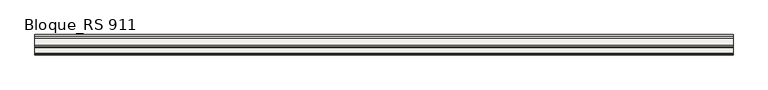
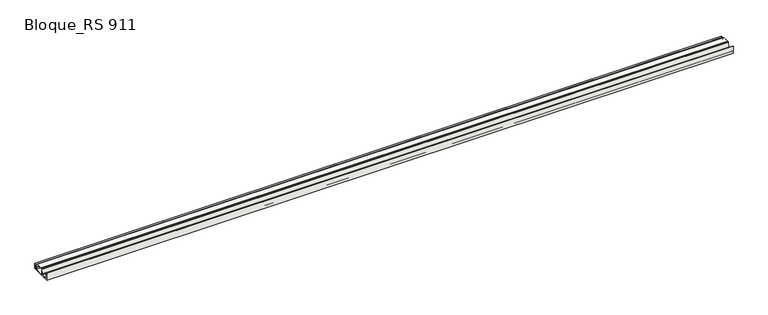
"""IFC4 building model written with IfcOpenShell, lengths in millimetres: slab geometry, ROSA GRES_RS 911 : Bloque_RS 911."""

from ifc_helpers import new_model, si_unit, point, frame, frame_2d, origin, place, context, project, spatial, polyline, circle_curve, trimmed, segment, composite_curve, outline, extrude, source, transform, mapped, element, save


def bloque_rs_911_a1ea5440(model_context):
    return source(origin(), model_context, "Body", "SweptSolid", [
        extrude(outline(composite_curve([segment(polyline([(-12.836227, 1.7539108), (-626.836227, 1.7539108), (-626.836227, 216.3460936), (-616.836227, 216.3460936), (-616.836227, 206.3460936), (-598.836227, 206.3460936), (-587.1239808, 55.2086635)]), True, "CONTINUOUS"), segment(trimmed(circle_curve(frame_2d((-567.1837649, 56.7539108)), 20.0), [point((-587.1239808, 55.2086635))], [point((-567.1837649, 36.7539108))], True, "CARTESIAN"), True, "CONTINUOUS"), segment(polyline([(-567.1837649, 36.7539108), (-413.4886891, 36.7539108)]), True, "CONTINUOUS"), segment(trimmed(circle_curve(frame_2d((-413.4886891, 56.7539108)), 20.0), [point((-413.4886891, 36.7539108))], [point((-393.5484732, 55.2086635))], True, "CARTESIAN"), True, "CONTINUOUS"), segment(polyline([(-393.5484732, 55.2086635), (-381.836227, 206.3460936), (-363.836227, 206.3460936), (-363.836227, 216.3460936), (-343.836227, 216.3460936), (-343.836227, 214.7181867), (-123.836227, 196.8112099), (-125.1172881, 181.0724591), (-72.836227, 176.8170239), (-72.836227, 173.8170239), (-67.836227, 173.8170239), (-67.836227, 176.4100471), (-12.836227, 171.9333029), (-12.836227, 1.7539108)]), True, "CONTINUOUS")], self_intersect=False), holes=[composite_curve([segment(polyline([(-67.836227, 140.6431347), (-67.836227, 36.7539108)]), True, "CONTINUOUS"), segment(trimmed(circle_curve(frame_2d((-59.836227, 36.7539108)), 8.0), [point((-67.836227, 36.7539108))], [point((-59.836227, 28.7539108))], True, "CARTESIAN"), True, "CONTINUOUS"), segment(polyline([(-59.836227, 28.7539108), (-47.836227, 28.7539108)]), True, "CONTINUOUS"), segment(trimmed(circle_curve(frame_2d((-47.836227, 36.7539108)), 8.0), [point((-47.836227, 28.7539108))], [point((-39.836227, 36.7539108))], True, "CARTESIAN"), True, "CONTINUOUS"), segment(polyline([(-39.836227, 36.7539108), (-39.836227, 139.6663905)]), True, "CONTINUOUS"), segment(trimmed(circle_curve(frame_2d((-47.836227, 139.6663905)), 8.0), [point((-39.836227, 139.6663905))], [point((-47.1872106, 147.6400206))], True, "CARTESIAN"), True, "CONTINUOUS"), segment(polyline([(-47.1872106, 147.6400206), (-59.1872106, 148.6167648)]), True, "CONTINUOUS"), segment(trimmed(circle_curve(frame_2d((-59.836227, 140.6431347)), 8.0), [point((-59.1872106, 148.6167648))], [point((-67.836227, 140.6431347))], True, "CARTESIAN"), True, "CONTINUOUS")], self_intersect=False), composite_curve([segment(polyline([(-180.4105134, 169.2541533), (-334.6837717, 181.811279)]), True, "CONTINUOUS"), segment(trimmed(circle_curve(frame_2d((-336.3063127, 161.8772036)), 20.0), [point((-334.6837717, 181.811279))], [point((-356.3063127, 161.8772036))], True, "CARTESIAN"), True, "CONTINUOUS"), segment(polyline([(-356.3063127, 161.8772036), (-356.3063127, 28.7539108), (-102.3063127, 28.7539108), (-102.3063127, 84.534333)]), True, "CONTINUOUS"), segment(trimmed(circle_curve(frame_2d((-187.3063127, 84.534333)), 85.0), [point((-102.3063127, 84.534333))], [point((-180.4105134, 169.2541533))], True, "CARTESIAN"), True, "CONTINUOUS")], self_intersect=False)]), frame((0.0, 0.0, 0.0), z_axis=(1.0, 0.0, 0.0), x_axis=(0.0, 1.0, 0.0)), (0.0, 0.0, 1.0), 20888.531773),
    ])


if __name__ == "__main__":
    model = new_model("IFC4")
    model_context = context("Model", 3, world=origin())
    ifc_project = project(units=[si_unit("LENGTHUNIT", "METRE", prefix="MILLI")], contexts=[model_context])
    site = spatial("IfcSite", under=ifc_project)
    building = spatial("IfcBuilding", under=site)
    placement = place(None, origin())
    bloque_rs_911_shape = bloque_rs_911_a1ea5440(model_context)
    element("IfcSlab", 1, ObjectType="ROSA GRES_RS 911 : Bloque_RS 911", at=placement, inside=building, context=model_context, shape_type="MappedRepresentation", body=[
        mapped(bloque_rs_911_shape, transform((0.0, 0.0, 0.0), x_axis=(1.0, 0.0, 0.0), y_axis=(0.0, 1.0, 0.0), z_axis=(0.0, 0.0, 1.0))),
    ])
    save(model, "model.ifc")
